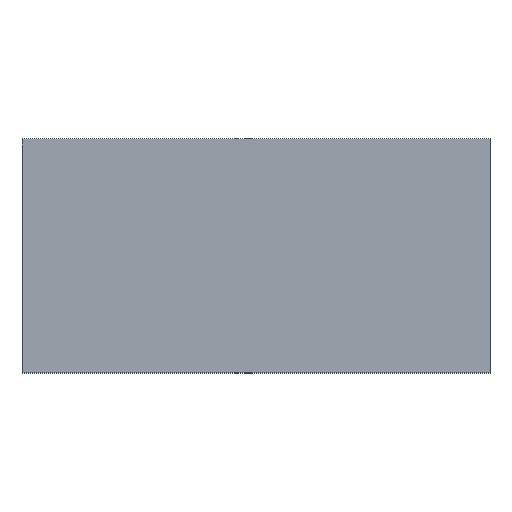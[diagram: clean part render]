
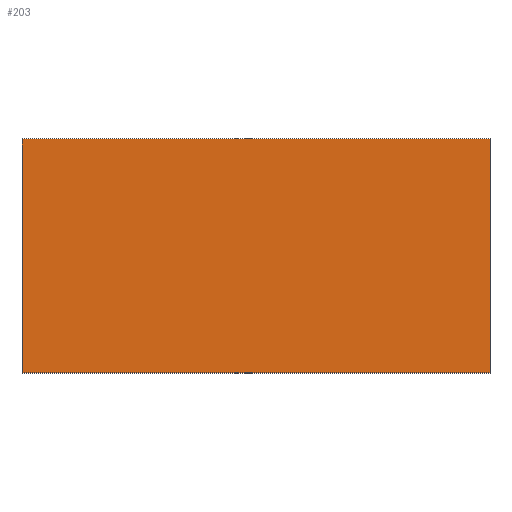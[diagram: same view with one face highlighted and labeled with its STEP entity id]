
A CAD part, top view. The second image highlights one B-rep face of the part: STEP entity #203.
In plain terms, the highlighted planar face has unit normal (0, 0, 1).
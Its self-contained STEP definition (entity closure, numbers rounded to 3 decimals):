
#73=CARTESIAN_POINT('',(-40.0,20.0,5.0));
#74=VERTEX_POINT('',#73);
#75=CARTESIAN_POINT('',(40.0,20.0,5.0));
#76=VERTEX_POINT('',#75);
#77=CARTESIAN_POINT('',(-40.0,20.0,5.0));
#78=DIRECTION('',(1.0,0.0,0.0));
#79=VECTOR('',#78,80.0);
#80=LINE('',#77,#79);
#81=EDGE_CURVE('',#74,#76,#80,.T.);
#113=CARTESIAN_POINT('',(40.0,-20.0,5.0));
#114=VERTEX_POINT('',#113);
#115=CARTESIAN_POINT('',(40.0,20.0,5.0));
#116=DIRECTION('',(0.0,-1.0,0.0));
#117=VECTOR('',#116,40.0);
#118=LINE('',#115,#117);
#119=EDGE_CURVE('',#76,#114,#118,.T.);
#144=CARTESIAN_POINT('',(-40.0,-20.0,5.0));
#145=VERTEX_POINT('',#144);
#146=CARTESIAN_POINT('',(40.0,-20.0,5.0));
#147=DIRECTION('',(-1.0,0.0,0.0));
#148=VECTOR('',#147,80.0);
#149=LINE('',#146,#148);
#150=EDGE_CURVE('',#114,#145,#149,.T.);
#175=CARTESIAN_POINT('',(-40.0,-20.0,5.0));
#176=DIRECTION('',(0.0,1.0,0.0));
#177=VECTOR('',#176,40.0);
#178=LINE('',#175,#177);
#179=EDGE_CURVE('',#145,#74,#178,.T.);
#192=CARTESIAN_POINT('',(0.,0.0,5.0));
#193=DIRECTION('',(0.0,0.0,1.0));
#194=DIRECTION('',(1.0,0.0,0.0));
#195=AXIS2_PLACEMENT_3D('',#192,#193,#194);
#196=PLANE('',#195);
#197=ORIENTED_EDGE('',*,*,#81,.F.);
#198=ORIENTED_EDGE('',*,*,#179,.F.);
#199=ORIENTED_EDGE('',*,*,#150,.F.);
#200=ORIENTED_EDGE('',*,*,#119,.F.);
#201=EDGE_LOOP('',(#197,#198,#199,#200));
#202=FACE_OUTER_BOUND('',#201,.T.);
#203=ADVANCED_FACE('',(#202),#196,.T.);
